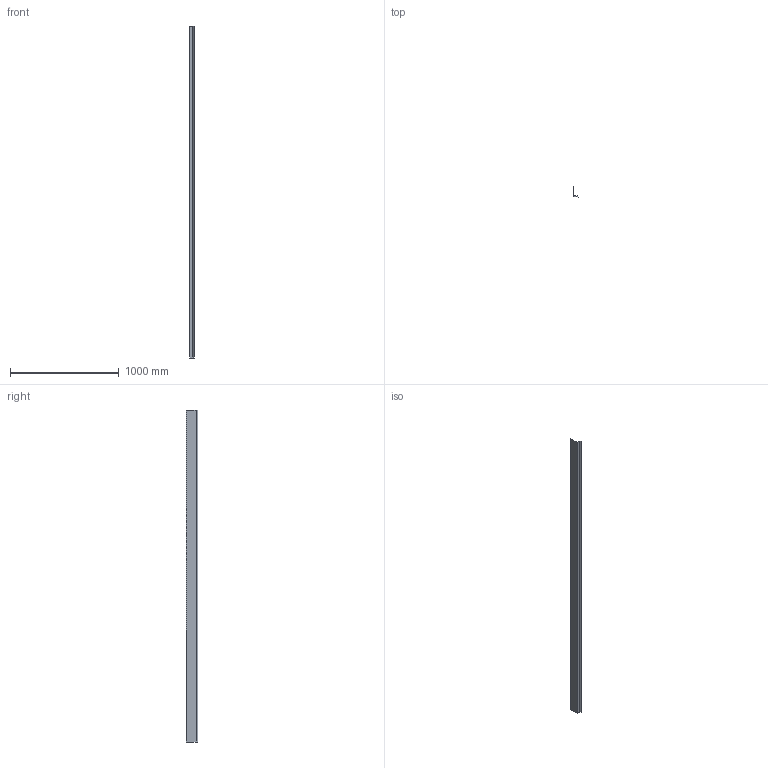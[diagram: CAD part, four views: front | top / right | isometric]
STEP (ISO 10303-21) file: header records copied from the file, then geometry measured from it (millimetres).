
FILE_DESCRIPTION (( 'STEP AP203' ), '1' );
FILE_NAME ('M50G.STEP', '2018-06-15T16:50:05', ( 'Michael Moliner' ), ( '' ), 'SwSTEP 2.0', 'SolidWorks 2018', '' );
FILE_SCHEMA (( 'CONFIG_CONTROL_DESIGN' ));
Length unit declared in the file: inch
Products named in the file (2): M50G
Bounding box: 42.37 x 103.11 x 3048 mm (x, y, z)
Volume: 238368.5 mm3; surface area: 941711.7 mm2
Topology: 1 solids, 1 shells, 18 faces, 48 edges, 32 vertices
Faces by surface type: plane 12, cylinder 6
Entity records: 721 total; most frequent: CARTESIAN_POINT 100, DIRECTION 100, ORIENTED_EDGE 96, EDGE_CURVE 48, VECTOR 36, LINE 36, VERTEX_POINT 32, AXIS2_PLACEMENT_3D 32
